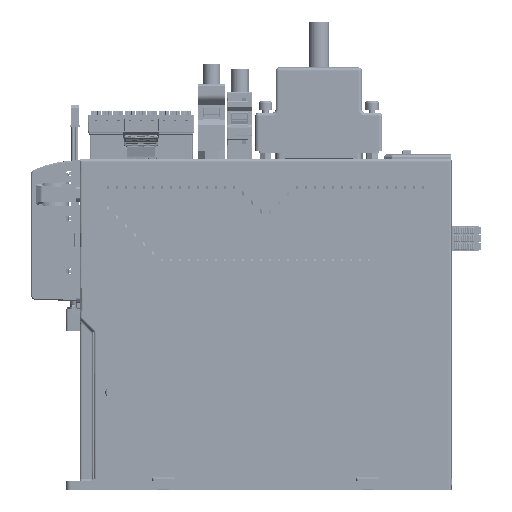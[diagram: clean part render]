
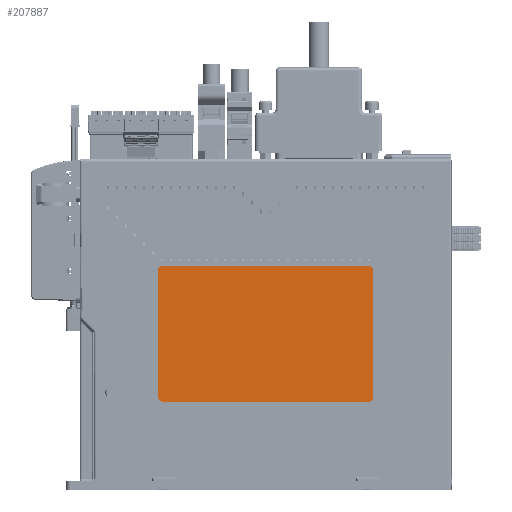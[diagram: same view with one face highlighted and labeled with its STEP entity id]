
A CAD part, left-side view. The second image highlights one B-rep face of the part: STEP entity #207887.
In plain terms, the highlighted planar face has unit normal (-1, 0, 0).
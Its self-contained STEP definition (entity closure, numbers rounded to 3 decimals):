
#71405=DIRECTION('',(0.,0.,1.));
#71406=VECTOR('',#71405,56.);
#71407=CARTESIAN_POINT('',(-24.7,-47.5,41.));
#71408=LINE('',#71407,#71406);
#71417=CARTESIAN_POINT('',(-24.7,45.5,97.));
#71418=DIRECTION('',(1.,0.,0.));
#71419=DIRECTION('',(0.,1.,0.));
#71420=AXIS2_PLACEMENT_3D('',#71417,#71418,#71419);
#71422=DIRECTION('',(0.,-1.,0.));
#71423=VECTOR('',#71422,91.);
#71424=CARTESIAN_POINT('',(-24.7,45.5,99.));
#71425=LINE('',#71424,#71423);
#71426=CARTESIAN_POINT('',(-24.7,-45.5,97.));
#71427=DIRECTION('',(1.,0.,0.));
#71428=DIRECTION('',(0.,0.,1.));
#71429=AXIS2_PLACEMENT_3D('',#71426,#71427,#71428);
#71431=CARTESIAN_POINT('',(-24.7,-45.5,41.));
#71432=DIRECTION('',(1.,0.,0.));
#71433=DIRECTION('',(0.,-1.,0.));
#71434=AXIS2_PLACEMENT_3D('',#71431,#71432,#71433);
#71436=DIRECTION('',(0.,1.,0.));
#71437=VECTOR('',#71436,91.);
#71438=CARTESIAN_POINT('',(-24.7,-45.5,39.));
#71439=LINE('',#71438,#71437);
#71440=CARTESIAN_POINT('',(-24.7,45.5,41.));
#71441=DIRECTION('',(1.,0.,0.));
#71442=DIRECTION('',(0.,0.,-1.));
#71443=AXIS2_PLACEMENT_3D('',#71440,#71441,#71442);
#71445=DIRECTION('',(0.,0.,1.));
#71446=VECTOR('',#71445,56.);
#71447=CARTESIAN_POINT('',(-24.7,47.5,41.));
#71448=LINE('',#71447,#71446);
#87987=CARTESIAN_POINT('',(-24.7,-47.5,97.));
#87988=VERTEX_POINT('',#87987);
#87989=CARTESIAN_POINT('',(-24.7,-47.5,41.));
#87990=VERTEX_POINT('',#87989);
#87991=CARTESIAN_POINT('',(-24.7,-45.5,99.));
#87992=VERTEX_POINT('',#87991);
#87993=CARTESIAN_POINT('',(-24.7,47.5,97.));
#87994=CARTESIAN_POINT('',(-24.7,45.5,99.));
#87995=VERTEX_POINT('',#87993);
#87996=VERTEX_POINT('',#87994);
#87997=CARTESIAN_POINT('',(-24.7,-45.5,39.));
#87998=VERTEX_POINT('',#87997);
#87999=CARTESIAN_POINT('',(-24.7,45.5,39.));
#88000=VERTEX_POINT('',#87999);
#88001=CARTESIAN_POINT('',(-24.7,47.5,41.));
#88002=VERTEX_POINT('',#88001);
#207866=CARTESIAN_POINT('',(-24.7,0.,69.));
#207867=DIRECTION('',(1.,0.,0.));
#207868=DIRECTION('',(0.,-1.,0.));
#207869=AXIS2_PLACEMENT_3D('',#207866,#207867,#207868);
#207870=PLANE('',#207869);
#207872=ORIENTED_EDGE('',*,*,#207871,.T.);
#207874=ORIENTED_EDGE('',*,*,#207873,.T.);
#207875=ORIENTED_EDGE('',*,*,#207850,.T.);
#207876=ORIENTED_EDGE('',*,*,#207833,.F.);
#207878=ORIENTED_EDGE('',*,*,#207877,.T.);
#207880=ORIENTED_EDGE('',*,*,#207879,.T.);
#207882=ORIENTED_EDGE('',*,*,#207881,.T.);
#207884=ORIENTED_EDGE('',*,*,#207883,.T.);
#207885=EDGE_LOOP('',(#207872,#207874,#207875,#207876,#207878,#207880,#207882,
#207884));
#207886=FACE_OUTER_BOUND('',#207885,.F.);
#71421=CIRCLE('',#71420,2.);
#71430=CIRCLE('',#71429,2.);
#71435=CIRCLE('',#71434,2.);
#71444=CIRCLE('',#71443,2.);
#207833=EDGE_CURVE('',#87990,#87988,#71408,.T.);
#207850=EDGE_CURVE('',#87992,#87988,#71430,.T.);
#207871=EDGE_CURVE('',#87995,#87996,#71421,.T.);
#207873=EDGE_CURVE('',#87996,#87992,#71425,.T.);
#207877=EDGE_CURVE('',#87990,#87998,#71435,.T.);
#207879=EDGE_CURVE('',#87998,#88000,#71439,.T.);
#207881=EDGE_CURVE('',#88000,#88002,#71444,.T.);
#207883=EDGE_CURVE('',#88002,#87995,#71448,.T.);
#207887=ADVANCED_FACE('',(#207886),#207870,.F.);
